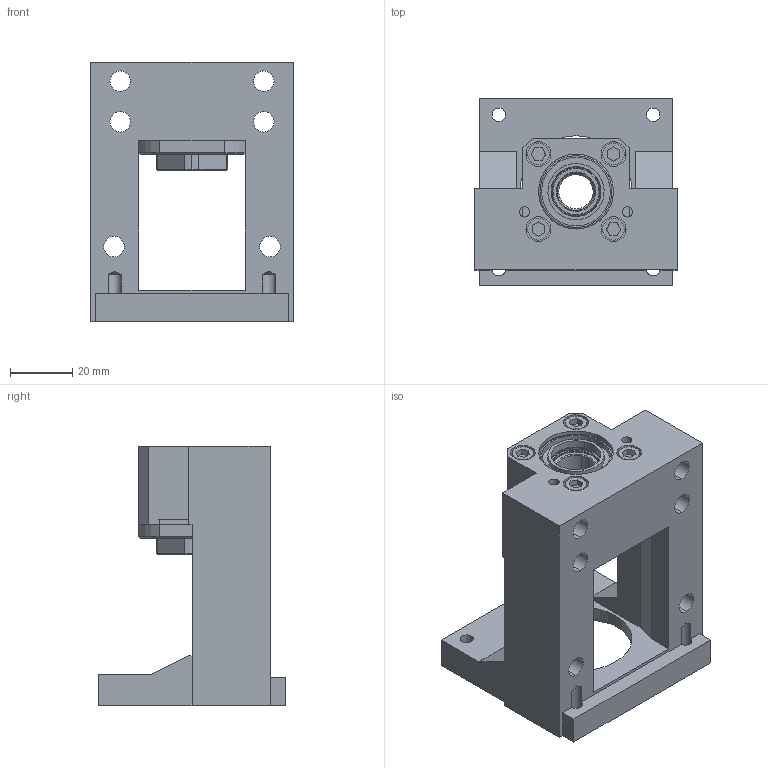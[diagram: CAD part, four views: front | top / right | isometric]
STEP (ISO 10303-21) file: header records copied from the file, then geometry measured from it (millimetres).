
FILE_DESCRIPTION (( 'STEP AP203' ), '1' );
FILE_NAME ('MBCB12-D.STEP', '2017-12-28T06:55:56', ( '' ), ( '' ), 'SwSTEP 2.0', 'SolidWorks 2017', '' );
FILE_SCHEMA (( 'CONFIG_CONTROL_DESIGN' ));
Length unit declared in the file: millimetre
Products named in the file (1): MBCB12-D
Bounding box: 65 x 60 x 83 mm (x, y, z)
Surface area: 34981.5 mm2 (no closed solid volume)
Topology: 0 solids, 23 shells, 253 faces, 670 edges, 435 vertices
Faces by surface type: plane 99, cylinder 87, cone 41, torus 14, sphere 8, bspline 4
Entity records: 8255 total; most frequent: CARTESIAN_POINT 1887, DIRECTION 1383, ORIENTED_EDGE 1187, EDGE_CURVE 646, AXIS2_PLACEMENT_3D 527, VERTEX_POINT 423, VECTOR 329, LINE 329
